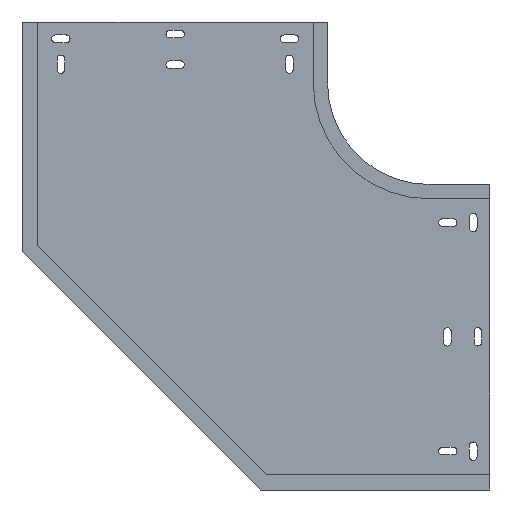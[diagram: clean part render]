
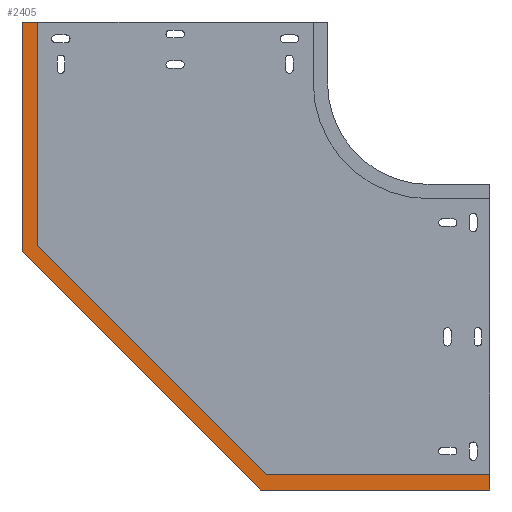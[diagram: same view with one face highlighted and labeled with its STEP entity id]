
A CAD part, front view. The second image highlights one B-rep face of the part: STEP entity #2405.
In plain terms, the highlighted planar face has unit normal (0, -1, 0).
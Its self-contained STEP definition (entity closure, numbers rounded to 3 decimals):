
#324 = VECTOR ( 'NONE', #491, 1000. ) ;
#445 = EDGE_CURVE ( 'NONE', #4293, #2819, #4028, .T. ) ;
#491 = DIRECTION ( 'NONE',  ( 0., 0., 1. ) ) ;
#493 = FACE_OUTER_BOUND ( 'NONE', #2247, .T. ) ;
#640 = CARTESIAN_POINT ( 'NONE',  ( -445.759, -1., 460.759 ) ) ;
#693 = AXIS2_PLACEMENT_3D ( 'NONE', #2230, #1148, #5094 ) ;
#733 = ORIENTED_EDGE ( 'NONE', *, *, #4549, .T. ) ;
#768 = EDGE_CURVE ( 'NONE', #4606, #2462, #3865, .T. ) ;
#882 = CARTESIAN_POINT ( 'NONE',  ( -284.74, -1., 15. ) ) ;
#1122 = CARTESIAN_POINT ( 'NONE',  ( 0., -1., 15. ) ) ;
#1148 = DIRECTION ( 'NONE',  ( 0., -1., 0. ) ) ;
#1242 = ORIENTED_EDGE ( 'NONE', *, *, #768, .F. ) ;
#1301 = VECTOR ( 'NONE', #3416, 1000. ) ;
#1404 = LINE ( 'NONE', #4058, #324 ) ;
#1777 = VECTOR ( 'NONE', #2971, 1000. ) ;
#1928 = CARTESIAN_POINT ( 'NONE',  ( -460.759, -1., 460.759 ) ) ;
#1966 = CARTESIAN_POINT ( 'NONE',  ( 0., -1., 0. ) ) ;
#1980 = VECTOR ( 'NONE', #4488, 1000. ) ;
#2154 = VECTOR ( 'NONE', #3175, 1000. ) ;
#2230 = CARTESIAN_POINT ( 'NONE',  ( -284.74, -1., 15. ) ) ;
#2247 = EDGE_LOOP ( 'NONE', ( #1242, #2746, #733, #2638, #5588, #3380, #5128, #5217 ) ) ;
#2315 = DIRECTION ( 'NONE',  ( 1., 0., 0. ) ) ;
#2356 = EDGE_CURVE ( 'NONE', #4748, #4396, #4001, .T. ) ;
#2399 = CARTESIAN_POINT ( 'NONE',  ( -460.759, -1., 234.759 ) ) ;
#2405 = ADVANCED_FACE ( 'NONE', ( #493 ), #5357, .T. ) ;
#2462 = VERTEX_POINT ( 'NONE', #1122 ) ;
#2638 = ORIENTED_EDGE ( 'NONE', *, *, #2356, .T. ) ;
#2723 = LINE ( 'NONE', #5696, #1980 ) ;
#2743 = CARTESIAN_POINT ( 'NONE',  ( 0., -1., 15. ) ) ;
#2746 = ORIENTED_EDGE ( 'NONE', *, *, #5501, .T. ) ;
#2819 = VERTEX_POINT ( 'NONE', #1966 ) ;
#2971 = DIRECTION ( 'NONE',  ( 0., 0., 1. ) ) ;
#3175 = DIRECTION ( 'NONE',  ( 0., 0., -1. ) ) ;
#3293 = CARTESIAN_POINT ( 'NONE',  ( -226., -1., 0. ) ) ;
#3380 = ORIENTED_EDGE ( 'NONE', *, *, #4657, .F. ) ;
#3416 = DIRECTION ( 'NONE',  ( 1., 0., 0. ) ) ;
#3499 = EDGE_CURVE ( 'NONE', #5192, #4396, #3913, .T. ) ;
#3863 = VECTOR ( 'NONE', #2315, 1000. ) ;
#3865 = LINE ( 'NONE', #882, #1301 ) ;
#3888 = CARTESIAN_POINT ( 'NONE',  ( -219.787, -1., 15. ) ) ;
#3913 = LINE ( 'NONE', #5671, #1777 ) ;
#3951 = LINE ( 'NONE', #3888, #5035 ) ;
#4001 = LINE ( 'NONE', #5388, #4546 ) ;
#4028 = LINE ( 'NONE', #4511, #3863 ) ;
#4058 = CARTESIAN_POINT ( 'NONE',  ( -445.759, -1., 240.973 ) ) ;
#4293 = VERTEX_POINT ( 'NONE', #3293 ) ;
#4372 = CARTESIAN_POINT ( 'NONE',  ( -219.787, -1., 15. ) ) ;
#4396 = VERTEX_POINT ( 'NONE', #1928 ) ;
#4488 = DIRECTION ( 'NONE',  ( -0.707, 0., 0.707 ) ) ;
#4511 = CARTESIAN_POINT ( 'NONE',  ( -284.74, -1., 0. ) ) ;
#4546 = VECTOR ( 'NONE', #4897, 1000. ) ;
#4549 = EDGE_CURVE ( 'NONE', #4644, #4748, #1404, .T. ) ;
#4606 = VERTEX_POINT ( 'NONE', #4372 ) ;
#4644 = VERTEX_POINT ( 'NONE', #5323 ) ;
#4657 = EDGE_CURVE ( 'NONE', #4293, #5192, #2723, .T. ) ;
#4748 = VERTEX_POINT ( 'NONE', #640 ) ;
#4897 = DIRECTION ( 'NONE',  ( -1., 0., 0. ) ) ;
#4978 = LINE ( 'NONE', #2743, #2154 ) ;
#5035 = VECTOR ( 'NONE', #5279, 1000. ) ;
#5094 = DIRECTION ( 'NONE',  ( 0., 0., -1. ) ) ;
#5126 = EDGE_CURVE ( 'NONE', #2462, #2819, #4978, .T. ) ;
#5128 = ORIENTED_EDGE ( 'NONE', *, *, #445, .T. ) ;
#5192 = VERTEX_POINT ( 'NONE', #2399 ) ;
#5217 = ORIENTED_EDGE ( 'NONE', *, *, #5126, .F. ) ;
#5279 = DIRECTION ( 'NONE',  ( -0.707, 0., 0.707 ) ) ;
#5323 = CARTESIAN_POINT ( 'NONE',  ( -445.759, -1., 240.973 ) ) ;
#5357 = PLANE ( 'NONE',  #693 ) ;
#5388 = CARTESIAN_POINT ( 'NONE',  ( -349.011, -1., 460.759 ) ) ;
#5501 = EDGE_CURVE ( 'NONE', #4606, #4644, #3951, .T. ) ;
#5588 = ORIENTED_EDGE ( 'NONE', *, *, #3499, .F. ) ;
#5671 = CARTESIAN_POINT ( 'NONE',  ( -460.759, -1., 234.759 ) ) ;
#5696 = CARTESIAN_POINT ( 'NONE',  ( -226., -1., 0. ) ) ;
